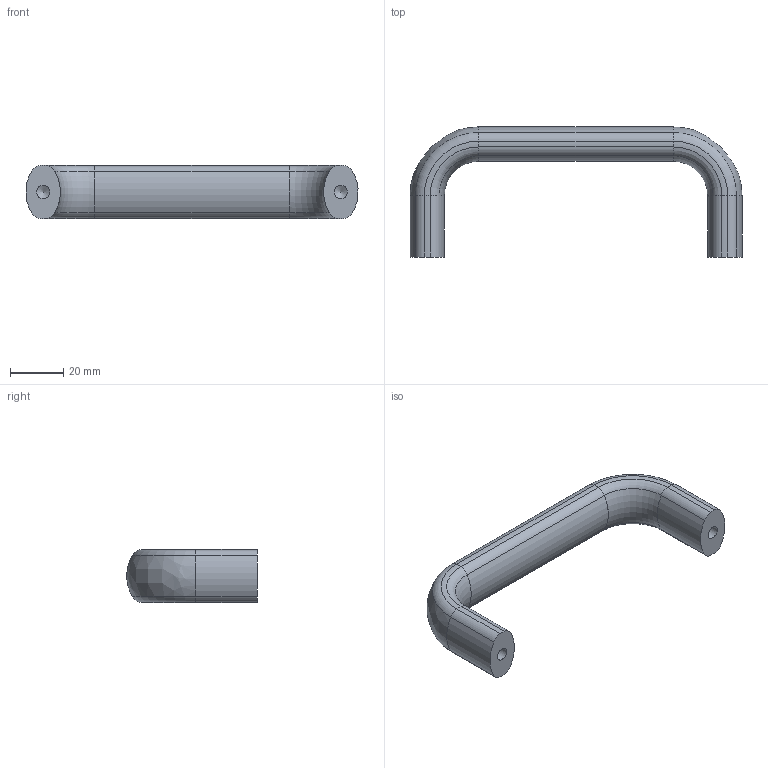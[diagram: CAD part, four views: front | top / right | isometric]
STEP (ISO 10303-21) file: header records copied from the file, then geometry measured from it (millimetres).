
FILE_DESCRIPTION( ( 'STEP AP203' ), '1' );
FILE_NAME( 'C:/Temp/Ganter_Step_05_03_2020/data/1_2/gn_565/Cabinet ''''U'''' handle GN 565-20-112-BL.stp', '2020-03-05T10:08:41', ( 'License CC BY-ND 4.0' ), ( 'CADENAS' ), ' ', 'PARTsolutions', ' ' );
FILE_SCHEMA( ( 'CONFIG_CONTROL_DESIGN' ) );
Length unit declared in the file: millimetre
Products named in the file (1): _Cabinet ''U'' handle GN 565-20-112-BL
Bounding box: 124.91 x 48.97 x 19.99 mm (x, y, z)
Volume: 37347.1 mm3; surface area: 10400.8 mm2
Topology: 1 solids, 1 shells, 53 faces, 128 edges, 77 vertices
Faces by surface type: cylinder 26, torus 14, plane 9, bspline 2, cone 2
Full cylindrical faces by diameter (mm): 4.917 x2
Entity records: 1640 total; most frequent: CARTESIAN_POINT 337, DIRECTION 304, ORIENTED_EDGE 244, AXIS2_PLACEMENT_3D 140, EDGE_CURVE 122, CIRCLE 88, VERTEX_POINT 77, EDGE_LOOP 57
